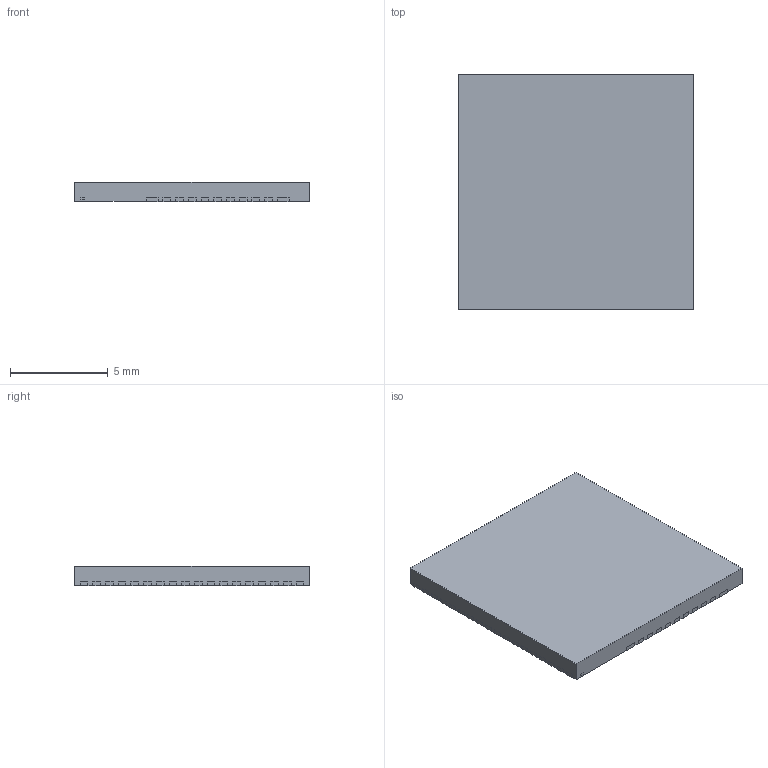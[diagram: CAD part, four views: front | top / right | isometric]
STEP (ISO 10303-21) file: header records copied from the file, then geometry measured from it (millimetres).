
FILE_DESCRIPTION((''),'2;1');
FILE_NAME('4225510RB_RQZ0054A_ASM','2022-03-17T15:09:32',('a0412086'),(''),'CREO PARAMETRIC BY PTC INC, 2018500','CREO PARAMETRIC BY PTC INC, 2018500','');
FILE_SCHEMA(('CONFIG_CONTROL_DESIGN','SHAPE_APPEARANCE_LAYERS_GROUPS'));
Length unit declared in the file: millimetre
Products named in the file (7): 4225510_UNIT_D1; DRIVER_DA; DRIVER_DIE; GAN_SOLDER; GAN_DIE; MOLD; 4225510RB_RQZ0054A_ASM
Assembly tree (6 placements, depth 2):
  4225510RB_RQZ0054A_ASM
    4225510_UNIT_D1
    DRIVER_DA
    DRIVER_DIE
    GAN_SOLDER
    GAN_DIE
    MOLD
Bounding box: 12 x 12 x 1 mm (x, y, z)
Volume: 142.8 mm3; surface area: 834.7 mm2
Topology: 16 solids, 16 shells, 1201 faces, 3740 edges, 2484 vertices
Faces by surface type: plane 1197, cylinder 4
Entity records: 52985 total; most frequent: ORIENTED_EDGE 7480, CARTESIAN_POINT 7438, DIRECTION 6176, PRESENTATION_STYLE_ASSIGNMENT 3816, STYLED_ITEM 3756, CURVE_STYLE 3740, EDGE_CURVE 3740, VECTOR 3732
